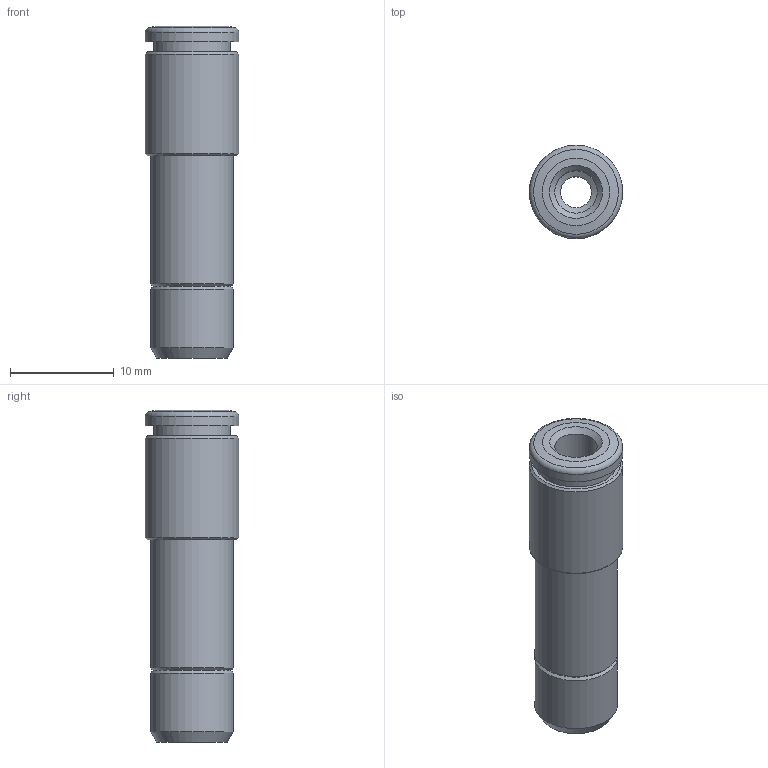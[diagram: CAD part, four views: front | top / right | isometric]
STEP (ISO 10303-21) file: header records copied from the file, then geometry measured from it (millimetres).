
FILE_DESCRIPTION(('Bauteilbeschreibung','HiCAD-Model','HiCAD-STEP-TRANSLATION','Bauteilbeschreibung'),'2;1');
FILE_NAME('B:/ABGLEICH/ZEICHNUNGEN/STEP FÜR INTERNET/STEP/IPSO 08/200804_IPSO_08_8_4.STP','2012-03-06T13:45:37+00:00',('Konstrukteur'),('Konstrukteur Firma GmbH'),' HiCAD neXt 2008, Step 3.1.1401.2J ','HiCAD neXt 2008','confidential');
FILE_SCHEMA(('AUTOMOTIVE_DESIGN { 1 2 10303 214 0 1 1 1 }'));
Length unit declared in the file: millimetre
Products named in the file (3): A00804_IPSO_08_8_4; R200804_N; DR4_1_NEU
Assembly tree (2 placements, depth 2):
  A00804_IPSO_08_8_4
    R200804_N
    DR4_1_NEU
Bounding box: 9 x 9 x 32 mm (x, y, z)
Volume: 1275.3 mm3; surface area: 1651.5 mm2
Topology: 2 solids, 2 shells, 32 faces, 58 edges, 33 vertices
Faces by surface type: cone 13, cylinder 11, plane 7, torus 1
Full cylindrical faces by diameter (mm): 3 x1, 4.1 x2, 6.4 x1, 7.3 x1, 7.4 x1, 7.6 x1, 8 x2, 9 x2
Entity records: 888 total; most frequent: DIRECTION 136, CARTESIAN_POINT 100, AXIS2_PLACEMENT_3D 68, EDGE_LOOP 64, ORIENTED_EDGE 64, COLOUR_RGB 34, PRESENTATION_STYLE_ASSIGNMENT 34, ADVANCED_FACE 32
